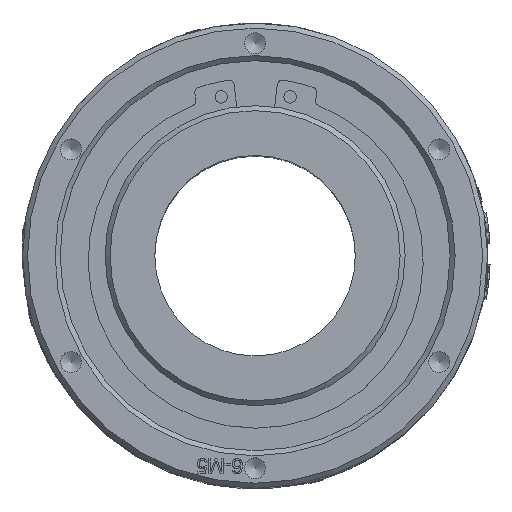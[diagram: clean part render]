
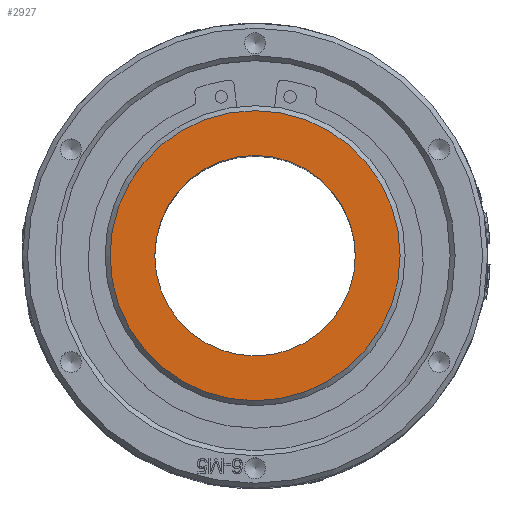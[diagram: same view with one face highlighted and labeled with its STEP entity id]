
A CAD part, top view. The second image highlights one B-rep face of the part: STEP entity #2927.
In plain terms, the highlighted planar face has unit normal (0, 0, 1).
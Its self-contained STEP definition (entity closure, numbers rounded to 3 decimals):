
#323=FACE_BOUND('',#7217,.T.);
#324=FACE_BOUND('',#7218,.T.);
#792=CIRCLE('',#24073,20.05);
#852=CIRCLE('',#24174,29.);
#1384=PLANE('',#24175);
#2927=ADVANCED_FACE('',(#323,#324),#1384,.T.);
#7217=EDGE_LOOP('',(#11734));
#7218=EDGE_LOOP('',(#11735));
#11734=ORIENTED_EDGE('',*,*,#19614,.T.);
#11735=ORIENTED_EDGE('',*,*,#19721,.T.);
#16378=VERTEX_POINT('',#44493);
#16472=VERTEX_POINT('',#45071);
#19614=EDGE_CURVE('',#16378,#16378,#792,.T.);
#19721=EDGE_CURVE('',#16472,#16472,#852,.T.);
#24073=AXIS2_PLACEMENT_3D('',#44492,#26640,#26641);
#24174=AXIS2_PLACEMENT_3D('',#45070,#26857,#26858);
#24175=AXIS2_PLACEMENT_3D('',#45072,#26859,#26860);
#26640=DIRECTION('',(0.,0.,-1.));
#26641=DIRECTION('',(1.,0.,0.));
#26857=DIRECTION('',(0.,0.,1.));
#26858=DIRECTION('',(1.,0.,0.));
#26859=DIRECTION('',(0.,0.,1.));
#26860=DIRECTION('',(1.,0.,0.));
#44492=CARTESIAN_POINT('',(0.,0.,90.));
#44493=CARTESIAN_POINT('',(20.05,0.,90.));
#45070=CARTESIAN_POINT('',(0.,0.,90.));
#45071=CARTESIAN_POINT('',(29.,0.,90.));
#45072=CARTESIAN_POINT('',(0.,0.,90.));
